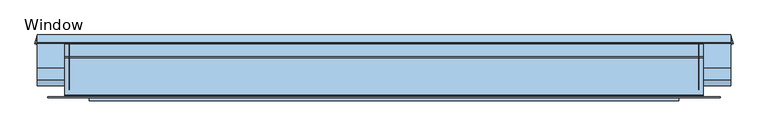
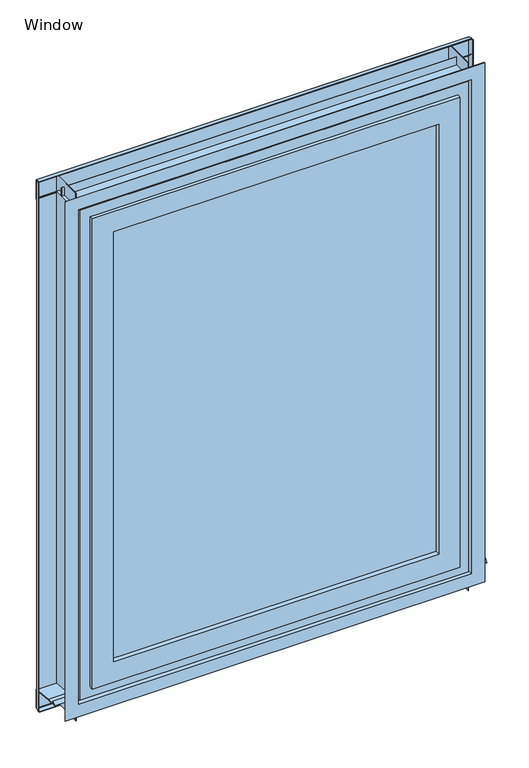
"""IFC4 building model written with IfcOpenShell, lengths in millimetres: window geometry, TE-H-06_02_Window Module i : Window."""

from ifc_helpers import new_model, si_unit, frame, origin, place, context, project, spatial, polyline, outline, extrude, faceted_brep, source, transform, mapped, element, save


def window_1663a2fa(model_context):
    return source(origin(), model_context, "Body", "SolidModel", [
        faceted_brep([(-740.0, -75.0, 1988.0), (-740.0, -125.0, 1988.0), (-740.0, -125.0, 22.5095257), (-740.0, -75.0, 22.5095257), (740.0, -125.0, 22.5095257), (740.0, -75.0, 22.5095257), (790.0, -125.0, -27.4904743), (790.0, -125.0, 2038.0), (-790.0, -125.0, 2038.0), (-790.0, -125.0, -27.4904743), (740.0, -125.0, 1988.0), (740.0, -75.0, 1988.0), (-742.0, -75.0, 20.5095257), (-742.0, -75.0, 1990.0), (742.0, -75.0, 1990.0), (742.0, -75.0, 20.5095257), (-742.0, -123.0, 1990.0), (-742.0, -123.0, 20.5095257), (742.0, -123.0, 20.5095257), (742.0, -123.0, 1990.0), (-790.0, -123.0, -27.4904743), (-790.0, -123.0, 2038.0), (790.0, -123.0, 2038.0), (790.0, -123.0, -27.4904743)], [[[0, 1, 2, 3]], [[3, 2, 4, 5]], [[6, 7, 8, 9], [2, 1, 10, 4]], [[5, 4, 10, 11]], [[12, 13, 14, 15], [5, 11, 0, 3]], [[16, 13, 12, 17]], [[17, 12, 15, 18]], [[18, 15, 14, 19]], [[20, 21, 22, 23], [18, 19, 16, 17]], [[8, 21, 20, 9]], [[9, 20, 23, 6]], [[6, 23, 22, 7]], [[11, 10, 1, 0]], [[19, 14, 13, 16]], [[7, 22, 21, 8]]]),
        extrude(outline(polyline([(-812.1994161, 17.9469826), (-816.9616865, 0.1739474), (-819.6662789, 0.8986408), (-814.3069308, 20.9), (-738.6, 20.9), (-738.6, -106.5), (-739.4, -106.5), (-739.4, 20.1), (-813.6930692, 20.1), (-818.686483, 1.4643262), (-817.527372, 1.1537433), (-812.9721568, 18.1540379), (-812.1994161, 17.9469826)])), frame((0.0, 0.0, -55.3788665), z_axis=(0.0, 0.0, 1.0), x_axis=(1.0, 0.0, 0.0)), (0.0, 0.0, 1.0), 2099.0782826),
        extrude(outline(polyline([(812.1994161, 17.9469826), (812.9721568, 18.1540379), (817.527372, 1.1537433), (818.686483, 1.4643262), (813.6930692, 20.1), (739.4, 20.1), (739.4, -106.5), (738.6, -106.5), (738.6, 20.9), (814.3069308, 20.9), (819.6662789, 0.8986408), (816.9616865, 0.1739474), (812.1994161, 17.9469826)])), frame((0.0, 0.0, -55.3788665), z_axis=(0.0, 0.0, 1.0), x_axis=(1.0, 0.0, 0.0)), (0.0, 0.0, 1.0), 2099.0782826),
        extrude(outline(polyline([(-627.485256, -93.2430518), (627.485256, -93.2430518), (627.485256, -113.2430429), (-627.485256, -113.2430429), (-627.485256, -93.2430518)])), frame((0.0, 0.0, 130.2696635), z_axis=(0.0, 0.0, 1.0), x_axis=(1.0, 0.0, 0.0)), (0.0, 0.0, 1.0), 1740.2550323),
        faceted_brep([(-656.2021017, -75.0, 1904.2021017), (-656.2021017, -58.0, 1904.2021017), (-656.2021017, -58.0, 106.3074239), (-656.2021017, -75.0, 106.3074239), (656.2021017, -58.0, 1904.2021017), (656.2021017, -58.0, 106.3074239), (-612.5, -58.0, 150.0095257), (612.5, -58.0, 150.0095257), (612.5, -58.0, 1860.5), (-612.5, -58.0, 1860.5), (656.2021017, -75.0, 106.3074239), (-664.5, -75.0, 1912.5), (664.5, -75.0, 1912.5), (664.5, -75.0, 98.0095257), (-664.5, -75.0, 98.0095257), (656.2021017, -75.0, 1904.2021017), (-664.5, -58.0, 1912.5), (-664.5, -58.0, 98.0095257), (664.5, -58.0, 98.0095257), (-732.5, -58.0, 1980.5), (732.5, -58.0, 1980.5), (732.5, -58.0, 30.0095257), (-732.5, -58.0, 30.0095257), (664.5, -58.0, 1912.5), (-732.5, -61.8, 1980.5), (-732.5, -61.8, 30.0095257), (732.5, -61.8, 30.0095257), (732.5, -61.8, 1980.5), (-724.5, -61.8, 1972.5), (724.5, -61.8, 1972.5), (724.5, -61.8, 38.0095257), (-724.5, -61.8, 38.0095257), (-724.5, -65.8, 1972.5), (-724.5, -65.8, 38.0095257), (724.5, -65.8, 38.0095257), (-732.5, -65.8, 1980.5), (732.5, -65.8, 1980.5), (732.5, -65.8, 30.0095257), (-732.5, -65.8, 30.0095257), (724.5, -65.8, 1972.5), (-732.5, -70.1, 1980.5), (-732.5, -70.1, 30.0095257), (732.5, -70.1, 30.0095257), (732.5, -70.1, 1980.5), (-724.5, -70.1, 1972.5), (724.5, -70.1, 1972.5), (724.5, -70.1, 38.0095257), (-724.5, -70.1, 38.0095257), (-724.5, -105.9, 1972.5), (-724.5, -105.9, 38.0095257), (724.5, -105.9, 38.0095257), (-732.5, -105.9, 1980.5), (732.5, -105.9, 1980.5), (732.5, -105.9, 30.0095257), (-732.5, -105.9, 30.0095257), (724.5, -105.9, 1972.5), (-732.5, -110.2, 1980.5), (-732.5, -110.2, 30.0095257), (732.5, -110.2, 30.0095257), (732.5, -110.2, 1980.5), (-724.5, -110.2, 1972.5), (724.5, -110.2, 1972.5), (724.5, -110.2, 38.0095257), (-724.5, -110.2, 38.0095257), (-724.5, -114.2, 1972.5), (-724.5, -114.2, 38.0095257), (724.5, -114.2, 38.0095257), (-732.5, -114.2, 1980.5), (732.5, -114.2, 1980.5), (732.5, -114.2, 30.0095257), (-732.5, -114.2, 30.0095257), (724.5, -114.2, 1972.5), (-732.5, -118.0, 1980.5), (-732.5, -118.0, 30.0095257), (732.5, -118.0, 30.0095257), (732.5, -118.0, 1980.5), (-684.5, -118.0, 1932.5), (684.5, -118.0, 1932.5), (684.5, -118.0, 78.0095257), (-684.5, -118.0, 78.0095257), (-684.5, -106.8, 1932.5), (-684.5, -106.8, 78.0095257), (684.5, -106.8, 78.0095257), (-690.3127684, -106.8, 1938.3127684), (690.3127684, -106.8, 1938.3127684), (690.3127684, -106.8, 72.1967573), (-690.3127684, -106.8, 72.1967573), (684.5, -106.8, 1932.5), (-690.3127684, -70.5, 1938.3127684), (-690.3127684, -70.5, 72.1967573), (690.3127684, -70.5, 72.1967573), (690.3127684, -70.5, 1938.3127684), (-672.5, -70.5, 1920.5), (672.5, -70.5, 1920.5), (672.5, -70.5, 90.0095257), (-672.5, -70.5, 90.0095257), (-672.5, -122.5, 1920.5), (-672.5, -122.5, 90.0095257), (672.5, -122.5, 90.0095257), (-690.3127684, -122.5, 1938.3127684), (690.3127684, -122.5, 1938.3127684), (690.3127684, -122.5, 72.1967573), (-690.3127684, -122.5, 72.1967573), (672.5, -122.5, 1920.5), (-690.3127684, -118.7588936, 1938.3127684), (-690.3127684, -118.7588936, 72.1967573), (690.3127684, -118.7588936, 72.1967573), (-692.5, -118.7588936, 1940.5), (692.5, -118.7588936, 1940.5), (692.5, -118.7588936, 70.0095257), (-692.5, -118.7588936, 70.0095257), (690.3127684, -118.7588936, 1938.3127684), (-692.5, -132.5, 1940.5), (-692.5, -132.5, 70.0095257), (692.5, -132.5, 70.0095257), (692.5, -132.5, 1940.5), (-612.5, -132.5, 1860.5), (612.5, -132.5, 1860.5), (612.5, -132.5, 150.0095257), (-612.5, -132.5, 150.0095257), (-612.5, -112.9998708, 1860.5), (-612.5, -112.9998708, 150.0095257), (612.5, -112.9998708, 150.0095257), (-627.485256, -112.9998708, 1875.485256), (627.485256, -112.9998708, 1875.485256), (627.485256, -112.9998708, 135.0242697), (-627.485256, -112.9998708, 135.0242697), (612.5, -112.9998708, 1860.5), (-627.485256, -92.9998796, 1875.485256), (-627.485256, -92.9998796, 135.0242697), (627.485256, -92.9998796, 135.0242697), (627.485256, -92.9998796, 1875.485256), (-612.5, -92.9998796, 1860.5), (612.5, -92.9998796, 1860.5), (612.5, -92.9998796, 150.0095257), (-612.5, -92.9998796, 150.0095257)], [[[0, 1, 2, 3]], [[1, 4, 5, 2], [6, 7, 8, 9]], [[3, 2, 5, 10]], [[11, 12, 13, 14], [3, 10, 15, 0]], [[16, 11, 14, 17]], [[17, 14, 13, 18]], [[19, 20, 21, 22], [17, 18, 23, 16]], [[24, 19, 22, 25]], [[25, 22, 21, 26]], [[25, 26, 27, 24], [28, 29, 30, 31]], [[32, 28, 31, 33]], [[33, 31, 30, 34]], [[35, 36, 37, 38], [33, 34, 39, 32]], [[40, 35, 38, 41]], [[41, 38, 37, 42]], [[41, 42, 43, 40], [44, 45, 46, 47]], [[48, 44, 47, 49]], [[49, 47, 46, 50]], [[51, 52, 53, 54], [49, 50, 55, 48]], [[56, 51, 54, 57]], [[57, 54, 53, 58]], [[57, 58, 59, 56], [60, 61, 62, 63]], [[64, 60, 63, 65]], [[65, 63, 62, 66]], [[67, 68, 69, 70], [65, 66, 71, 64]], [[72, 67, 70, 73]], [[73, 70, 69, 74]], [[73, 74, 75, 72], [76, 77, 78, 79]], [[80, 76, 79, 81]], [[81, 79, 78, 82]], [[83, 84, 85, 86], [81, 82, 87, 80]], [[88, 83, 86, 89]], [[89, 86, 85, 90]], [[89, 90, 91, 88], [92, 93, 94, 95]], [[96, 92, 95, 97]], [[97, 95, 94, 98]], [[99, 100, 101, 102], [97, 98, 103, 96]], [[104, 99, 102, 105]], [[105, 102, 101, 106]], [[107, 108, 109, 110], [105, 106, 111, 104]], [[112, 107, 110, 113]], [[113, 110, 109, 114]], [[113, 114, 115, 112], [116, 117, 118, 119]], [[120, 116, 119, 121]], [[121, 119, 118, 122]], [[123, 124, 125, 126], [121, 122, 127, 120]], [[128, 123, 126, 129]], [[129, 126, 125, 130]], [[129, 130, 131, 128], [132, 133, 134, 135]], [[9, 132, 135, 6]], [[6, 135, 134, 7]], [[10, 5, 4, 15]], [[18, 13, 12, 23]], [[26, 21, 20, 27]], [[34, 30, 29, 39]], [[42, 37, 36, 43]], [[50, 46, 45, 55]], [[58, 53, 52, 59]], [[66, 62, 61, 71]], [[74, 69, 68, 75]], [[82, 78, 77, 87]], [[90, 85, 84, 91]], [[98, 94, 93, 103]], [[106, 101, 100, 111]], [[114, 109, 108, 115]], [[122, 118, 117, 127]], [[130, 125, 124, 131]], [[7, 134, 133, 8]], [[15, 4, 1, 0]], [[23, 12, 11, 16]], [[27, 20, 19, 24]], [[39, 29, 28, 32]], [[43, 36, 35, 40]], [[55, 45, 44, 48]], [[59, 52, 51, 56]], [[71, 61, 60, 64]], [[75, 68, 67, 72]], [[87, 77, 76, 80]], [[91, 84, 83, 88]], [[103, 93, 92, 96]], [[111, 100, 99, 104]], [[115, 108, 107, 112]], [[127, 117, 116, 120]], [[131, 124, 123, 128]], [[8, 133, 132, 9]]]),
        extrude(outline(polyline([(18.6775721, 1972.7828427), (18.1118867, 1972.2171573), (0.5513745, 1989.7776695), (-29.6829401, 1989.7776695), (-29.6829401, 2021.7776695), (-30.8829401, 2021.7776695), (-30.8829401, 1989.7776695), (-119.6368302, 1989.7776695), (-122.1173454, 2009.9798448), (-121.3233085, 2010.0773403), (-118.92905, 1990.5776695), (-31.6829401, 1990.5776695), (-31.6829401, 2022.5776695), (-28.8829401, 2022.5776695), (-28.8829401, 1990.5776695), (0.8827453, 1990.5776695), (18.6775721, 1972.7828427)])), frame((-750.0, 0.0, 0.0), z_axis=(1.0, 0.0, 0.0), x_axis=(0.0, 1.0, 0.0)), (0.0, 0.0, 1.0), 1500.0),
        extrude(outline(polyline([(22.0, -55.337372), (2.6814835, -60.5137529), (2.1638454, -58.5819012), (14.7093559, -55.2203418), (15.0199387, -56.3794528), (21.2, -54.7235104), (21.2, 17.2088336), (-54.7419205, 23.8528907), (-96.6383626, 23.8528907), (-84.6660755, 35.8251778), (-84.10039, 35.2594924), (-94.7069918, 24.6528907), (-54.7069918, 24.6528907), (22.0, 17.9418985), (22.0, -55.337372)])), frame((-814.3069308, 0.0, 0.0), z_axis=(1.0, 0.0, 0.0), x_axis=(0.0, 1.0, 0.0)), (0.0, 0.0, 1.0), 1628.6138616),
        extrude(outline(polyline([(20.6102223, 2042.6622579), (20.403167, 2041.8895172), (2.6301318, 2046.6517877), (3.3548252, 2049.35638), (22.0, 2044.3604204), (22.0, 1967.0806001), (4.9956722, 1984.084928), (5.5613576, 1984.6506134), (21.2, 1969.011971), (21.2, 2043.7465589), (3.9205106, 2048.3765841), (3.6099277, 2047.2174731), (20.6102223, 2042.6622579)])), frame((-814.3069308, 0.0, 0.0), z_axis=(1.0, 0.0, 0.0), x_axis=(0.0, 1.0, 0.0)), (0.0, 0.0, 1.0), 1628.6138616),
    ])


if __name__ == "__main__":
    model = new_model("IFC4")
    model_context = context("Model", 3, world=origin())
    ifc_project = project(units=[si_unit("LENGTHUNIT", "METRE", prefix="MILLI")], contexts=[model_context])
    site = spatial("IfcSite", under=ifc_project)
    building = spatial("IfcBuilding", under=site)
    placement = place(None, origin())
    window_shape = window_1663a2fa(model_context)
    element("IfcWindow", 1, ObjectType="TE-H-06_02_Window Module i : Window", at=placement, inside=building, context=model_context, shape_type="MappedRepresentation", body=[
        mapped(window_shape, transform((0.0, 0.0, 0.0), x_axis=(1.0, 0.0, 0.0), y_axis=(0.0, 1.0, 0.0), z_axis=(0.0, 0.0, 1.0))),
    ])
    save(model, "model.ifc")
